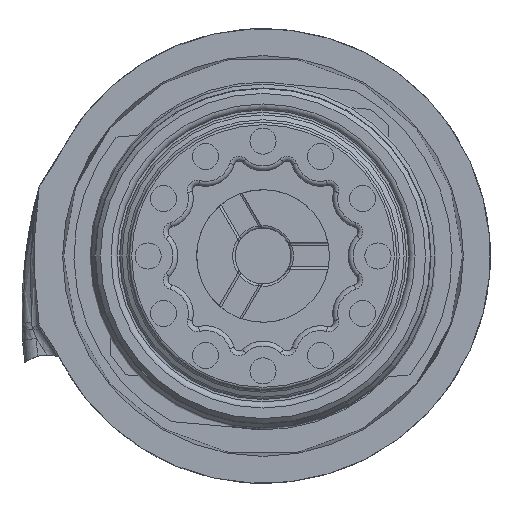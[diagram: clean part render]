
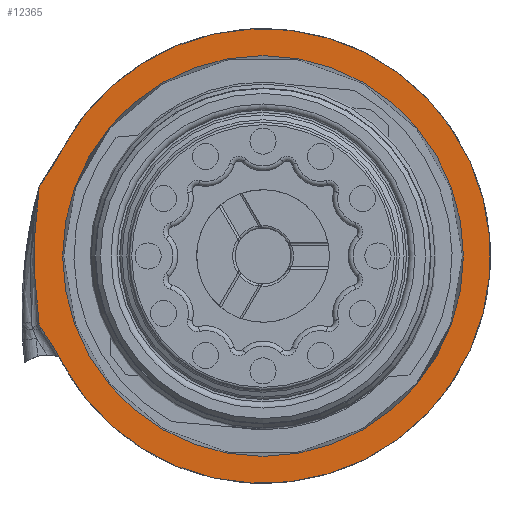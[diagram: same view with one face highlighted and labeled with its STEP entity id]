
A CAD part, left-side view. The second image highlights one B-rep face of the part: STEP entity #12365.
In plain terms, the highlighted planar face has unit normal (-1, 0, 0).
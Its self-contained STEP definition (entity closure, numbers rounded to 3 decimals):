
#12195=CARTESIAN_POINT('',(-18.,8.233,4.436));
#12196=VERTEX_POINT('',#12195);
#12214=CARTESIAN_POINT('',(-18.,9.115,2.998));
#12215=VERTEX_POINT('',#12214);
#12222=CARTESIAN_POINT('',(-18.,17.169,8.924));
#12223=DIRECTION('',(-1.0,0.,0.));
#12224=DIRECTION('',(0.,0.894,0.449));
#12225=AXIS2_PLACEMENT_3D('',#12222,#12223,#12224);
#12226=CIRCLE('',#12225,10.);
#12227=EDGE_CURVE('',#12215,#12196,#12226,.T.);
#12237=CARTESIAN_POINT('',(-18.,9.207,2.77));
#12238=VERTEX_POINT('',#12237);
#12239=CARTESIAN_POINT('',(-18.,8.712,2.701));
#12240=DIRECTION('',(1.0,0.,0.));
#12241=DIRECTION('',(0.,0.926,0.377));
#12242=AXIS2_PLACEMENT_3D('',#12239,#12240,#12241);
#12243=CIRCLE('',#12242,0.5);
#12244=EDGE_CURVE('',#12238,#12215,#12243,.T.);
#12295=CARTESIAN_POINT('',(-18.,8.795,0.));
#12296=DIRECTION('',(-1.0,0.0,0.0));
#12297=DIRECTION('',(0.0,0.0,1.0));
#12298=AXIS2_PLACEMENT_3D('',#12295,#12296,#12297);
#12299=PLANE('',#12298);
#12300=ORIENTED_EDGE('',*,*,#12244,.F.);
#12301=CARTESIAN_POINT('',(-18.,9.207,-2.77));
#12302=VERTEX_POINT('',#12301);
#12303=CARTESIAN_POINT('',(-18.,-10.6,0.));
#12304=DIRECTION('',(1.,0.,0.));
#12305=DIRECTION('',(0.,0.989,-0.145));
#12306=AXIS2_PLACEMENT_3D('',#12303,#12304,#12305);
#12307=CIRCLE('',#12306,20.);
#12308=EDGE_CURVE('',#12302,#12238,#12307,.T.);
#12309=ORIENTED_EDGE('',*,*,#12308,.F.);
#12310=CARTESIAN_POINT('',(-18.,9.115,-2.998));
#12311=VERTEX_POINT('',#12310);
#12312=CARTESIAN_POINT('',(-18.,8.712,-2.701));
#12313=DIRECTION('',(1.,0.,0.));
#12314=DIRECTION('',(0.,0.926,-0.377));
#12315=AXIS2_PLACEMENT_3D('',#12312,#12313,#12314);
#12316=CIRCLE('',#12315,0.5);
#12317=EDGE_CURVE('',#12311,#12302,#12316,.T.);
#12318=ORIENTED_EDGE('',*,*,#12317,.F.);
#12319=CARTESIAN_POINT('',(-18.,8.233,-4.436));
#12320=VERTEX_POINT('',#12319);
#12321=CARTESIAN_POINT('',(-18.,17.169,-8.924));
#12322=DIRECTION('',(-1.0,0.,0.));
#12323=DIRECTION('',(0.,0.798,-0.603));
#12324=AXIS2_PLACEMENT_3D('',#12321,#12322,#12323);
#12325=CIRCLE('',#12324,10.0);
#12326=EDGE_CURVE('',#12320,#12311,#12325,.T.);
#12327=ORIENTED_EDGE('',*,*,#12326,.F.);
#12328=CARTESIAN_POINT('',(-18.,8.231,-4.436));
#12329=VERTEX_POINT('',#12328);
#12330=CARTESIAN_POINT('',(-18.,8.231,-4.436));
#12331=DIRECTION('',(0.0,1.0,0.0));
#12332=VECTOR('',#12331,0.002);
#12333=LINE('',#12330,#12332);
#12334=EDGE_CURVE('',#12329,#12320,#12333,.T.);
#12335=ORIENTED_EDGE('',*,*,#12334,.F.);
#12336=CARTESIAN_POINT('',(-18.,8.231,4.436));
#12337=VERTEX_POINT('',#12336);
#12338=CARTESIAN_POINT('',(-18.,0.,0.));
#12339=DIRECTION('',(1.0,0.0,0.0));
#12340=DIRECTION('',(0.0,1.0,0.0));
#12341=AXIS2_PLACEMENT_3D('',#12338,#12339,#12340);
#12342=CIRCLE('',#12341,9.35);
#12343=EDGE_CURVE('',#12337,#12329,#12342,.T.);
#12344=ORIENTED_EDGE('',*,*,#12343,.F.);
#12345=CARTESIAN_POINT('',(-18.,8.233,4.436));
#12346=DIRECTION('',(0.0,-1.0,0.0));
#12347=VECTOR('',#12346,0.002);
#12348=LINE('',#12345,#12347);
#12349=EDGE_CURVE('',#12196,#12337,#12348,.T.);
#12350=ORIENTED_EDGE('',*,*,#12349,.F.);
#12351=ORIENTED_EDGE('',*,*,#12227,.F.);
#12352=EDGE_LOOP('',(#12300,#12309,#12318,#12327,#12335,#12344,#12350,#12351));
#12353=FACE_OUTER_BOUND('',#12352,.T.);
#12354=CARTESIAN_POINT('',(-18.,8.24,0.));
#12355=VERTEX_POINT('',#12354);
#12356=CARTESIAN_POINT('',(-18.,0.,0.));
#12357=DIRECTION('',(1.0,0.0,0.0));
#12358=DIRECTION('',(0.0,1.0,0.0));
#12359=AXIS2_PLACEMENT_3D('',#12356,#12357,#12358);
#12360=CIRCLE('',#12359,8.24);
#12361=EDGE_CURVE('',#12355,#12355,#12360,.T.);
#12362=ORIENTED_EDGE('',*,*,#12361,.T.);
#12363=EDGE_LOOP('',(#12362));
#12364=FACE_BOUND('',#12363,.T.);
#12365=ADVANCED_FACE('',(#12353,#12364),#12299,.T.);
